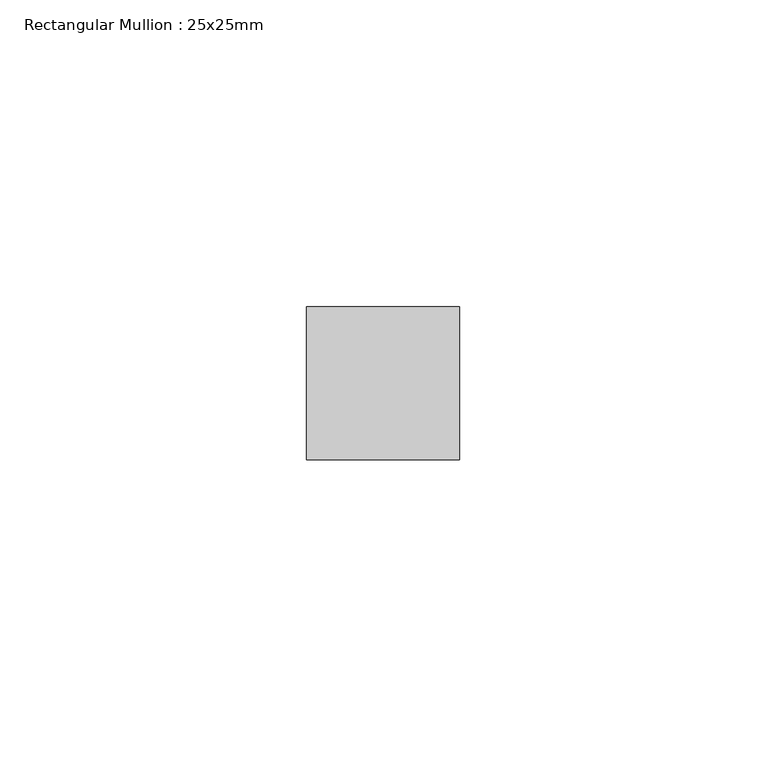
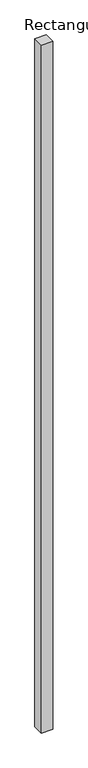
"""IFC4 building model written with IfcOpenShell, lengths in millimetres: member geometry, Rectangular Mullion : 25x25mm."""

from ifc_helpers import new_model, si_unit, frame, origin, place, context, project, spatial, polyline, outline, extrude, source, transform, mapped, element, save


def rectangular_mullion_25x25mm_c63ed219(model_context):
    return source(origin(), model_context, "Body", "SweptSolid", [
        extrude(outline(polyline([(0.0, 24.5), (0.0, -0.5), (-25.0, -0.5), (-25.0, 24.5), (0.0, 24.5)])), frame((0.0, 0.0, -1619.4444444), z_axis=(0.0, 0.0, 1.0), x_axis=(1.0, 0.0, 0.0)), (0.0, 0.0, 1.0), 1619.4444444),
    ])


if __name__ == "__main__":
    model = new_model("IFC4")
    model_context = context("Model", 3, world=origin())
    ifc_project = project(units=[si_unit("LENGTHUNIT", "METRE", prefix="MILLI")], contexts=[model_context])
    site = spatial("IfcSite", under=ifc_project)
    building = spatial("IfcBuilding", under=site)
    placement = place(None, origin())
    rectangular_mullion_25x25mm_shape = rectangular_mullion_25x25mm_c63ed219(model_context)
    element("IfcMember", 1, ObjectType="Rectangular Mullion : 25x25mm", at=placement, inside=building, context=model_context, shape_type="MappedRepresentation", body=[
        mapped(rectangular_mullion_25x25mm_shape, transform((0.0, 0.0, 0.0), x_axis=(1.0, 0.0, 0.0), y_axis=(0.0, 1.0, 0.0), z_axis=(0.0, 0.0, 1.0))),
    ])
    save(model, "model.ifc")
